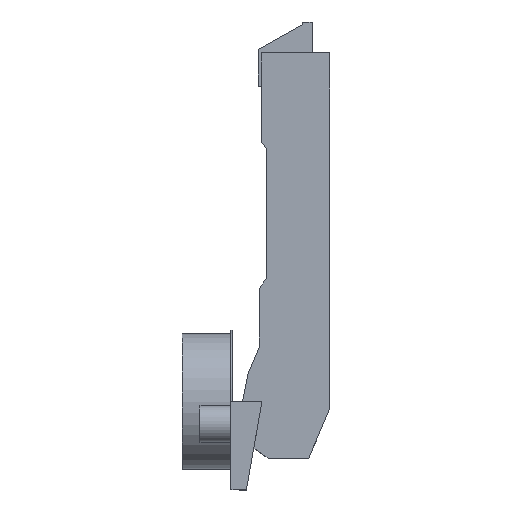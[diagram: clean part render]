
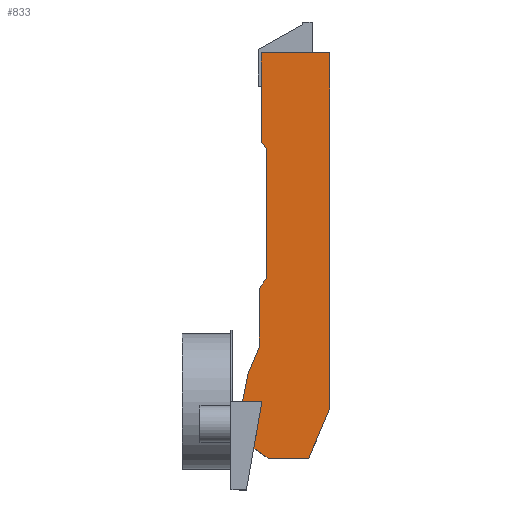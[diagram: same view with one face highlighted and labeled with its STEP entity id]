
A CAD part, top view. The second image highlights one B-rep face of the part: STEP entity #833.
In plain terms, the highlighted planar face has unit normal (0, 0, 1).
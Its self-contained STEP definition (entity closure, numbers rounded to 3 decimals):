
#29 = VERTEX_POINT ( 'NONE', #122 ) ;
#33 = VERTEX_POINT ( 'NONE', #126 ) ;
#44 = VERTEX_POINT ( 'NONE', #137 ) ;
#45 = VERTEX_POINT ( 'NONE', #138 ) ;
#47 = VERTEX_POINT ( 'NONE', #140 ) ;
#48 = VERTEX_POINT ( 'NONE', #141 ) ;
#57 = VERTEX_POINT ( 'NONE', #150 ) ;
#58 = VERTEX_POINT ( 'NONE', #151 ) ;
#64 = VERTEX_POINT ( 'NONE', #157 ) ;
#65 = VERTEX_POINT ( 'NONE', #158 ) ;
#67 = VERTEX_POINT ( 'NONE', #160 ) ;
#68 = VERTEX_POINT ( 'NONE', #161 ) ;
#73 = VERTEX_POINT ( 'NONE', #166 ) ;
#90 = VERTEX_POINT ( 'NONE', #183 ) ;
#93 = VERTEX_POINT ( 'NONE', #186 ) ;
#122 = CARTESIAN_POINT ( 'NONE',  ( 16.783, -14.594, 8.5 ) ) ;
#126 = CARTESIAN_POINT ( 'NONE',  ( 6.295, -14.594, 8.5 ) ) ;
#137 = CARTESIAN_POINT ( 'NONE',  ( 4.711, 0., 8.5 ) ) ;
#138 = CARTESIAN_POINT ( 'NONE',  ( 4.5, 90.1, 8.5 ) ) ;
#140 = CARTESIAN_POINT ( 'NONE',  ( 4.5, 67.242, 8.5 ) ) ;
#141 = CARTESIAN_POINT ( 'NONE',  ( 22.25, -1.744, 8.5 ) ) ;
#150 = CARTESIAN_POINT ( 'NONE',  ( 6., 32.108, 8.5 ) ) ;
#151 = CARTESIAN_POINT ( 'NONE',  ( 22.25, 90.1, 8.5 ) ) ;
#157 = CARTESIAN_POINT ( 'NONE',  ( 4.01, 29.266, 8.5 ) ) ;
#158 = CARTESIAN_POINT ( 'NONE',  ( 4.01, 14.096, 8.5 ) ) ;
#160 = CARTESIAN_POINT ( 'NONE',  ( 3.01, -12.294, 8.5 ) ) ;
#161 = CARTESIAN_POINT ( 'NONE',  ( 2.544, -12.294, 8.5 ) ) ;
#166 = CARTESIAN_POINT ( 'NONE',  ( 1.11, 7.296, 8.5 ) ) ;
#183 = CARTESIAN_POINT ( 'NONE',  ( -0.3, 0., 8.5 ) ) ;
#186 = CARTESIAN_POINT ( 'NONE',  ( 6., 65.1, 8.5 ) ) ;
#201 = CARTESIAN_POINT ( 'NONE',  ( -0.3, -12.294, 8.5 ) ) ;
#202 = PLANE ( 'NONE',  #1473 ) ;
#204 = DIRECTION ( 'NONE',  ( 0., 0., 1. ) ) ;
#205 = DIRECTION ( 'NONE',  ( 0., -1., 0. ) ) ;
#496 = CARTESIAN_POINT ( 'NONE',  ( 2.458, -12.78, 8.5 ) ) ;
#500 = DIRECTION ( 'NONE',  ( -0.174, -0.985, 0. ) ) ;
#505 = CARTESIAN_POINT ( 'NONE',  ( 3.01, -12.294, 8.5 ) ) ;
#508 = DIRECTION ( 'NONE',  ( 0.819, -0.574, 0. ) ) ;
#513 = CARTESIAN_POINT ( 'NONE',  ( 22.25, -1.744, 8.5 ) ) ;
#515 = CARTESIAN_POINT ( 'NONE',  ( 6.295, -14.594, 8.5 ) ) ;
#516 = DIRECTION ( 'NONE',  ( 0., 1., 0. ) ) ;
#519 = CARTESIAN_POINT ( 'NONE',  ( -0.3, 0., 8.5 ) ) ;
#520 = DIRECTION ( 'NONE',  ( -0.19, -0.982, 0. ) ) ;
#523 = CARTESIAN_POINT ( 'NONE',  ( 6., 32.108, 8.5 ) ) ;
#524 = DIRECTION ( 'NONE',  ( 1., 0., 0. ) ) ;
#527 = CARTESIAN_POINT ( 'NONE',  ( 4.5, 67.242, 8.5 ) ) ;
#528 = DIRECTION ( 'NONE',  ( 0., -1., 0. ) ) ;
#531 = CARTESIAN_POINT ( 'NONE',  ( 4.01, 14.096, 8.5 ) ) ;
#532 = DIRECTION ( 'NONE',  ( 0., -1., 0. ) ) ;
#535 = CARTESIAN_POINT ( 'NONE',  ( -0.3, 0., 8.5 ) ) ;
#536 = DIRECTION ( 'NONE',  ( 0., -1., 0. ) ) ;
#537 = CARTESIAN_POINT ( 'NONE',  ( -0.3, -12.294, 8.5 ) ) ;
#538 = DIRECTION ( 'NONE',  ( 1., 0., 0. ) ) ;
#541 = CARTESIAN_POINT ( 'NONE',  ( 1.11, 7.296, 8.5 ) ) ;
#542 = DIRECTION ( 'NONE',  ( 1., 0., 0. ) ) ;
#545 = CARTESIAN_POINT ( 'NONE',  ( 16.783, -14.594, 8.5 ) ) ;
#546 = DIRECTION ( 'NONE',  ( 0.392, 0.92, 0. ) ) ;
#549 = CARTESIAN_POINT ( 'NONE',  ( 22.25, 90.1, 8.5 ) ) ;
#550 = DIRECTION ( 'NONE',  ( -1., 0., 0. ) ) ;
#553 = CARTESIAN_POINT ( 'NONE',  ( 6., 65.1, 8.5 ) ) ;
#554 = DIRECTION ( 'NONE',  ( 0.574, -0.819, 0. ) ) ;
#557 = CARTESIAN_POINT ( 'NONE',  ( 4.01, 29.266, 8.5 ) ) ;
#558 = DIRECTION ( 'NONE',  ( -0.574, -0.819, 0. ) ) ;
#563 = DIRECTION ( 'NONE',  ( -0.392, -0.92, 0. ) ) ;
#821 = EDGE_LOOP ( 'NONE', ( #1061, #1060, #1057, #1058, #1055, #1056, #1053, #1054, #1052, #1051, #1767, #1768, #1771, #1772, #1773 ) ) ;
#833 = ADVANCED_FACE ( 'NONE', ( #1759 ), #202, .T. ) ;
#1051 = ORIENTED_EDGE ( 'NONE', *, *, #1609, .T. ) ;
#1052 = ORIENTED_EDGE ( 'NONE', *, *, #1620, .T. ) ;
#1053 = ORIENTED_EDGE ( 'NONE', *, *, #1618, .T. ) ;
#1054 = ORIENTED_EDGE ( 'NONE', *, *, #1603, .T. ) ;
#1055 = ORIENTED_EDGE ( 'NONE', *, *, #1599, .T. ) ;
#1056 = ORIENTED_EDGE ( 'NONE', *, *, #1607, .T. ) ;
#1057 = ORIENTED_EDGE ( 'NONE', *, *, #1595, .T. ) ;
#1058 = ORIENTED_EDGE ( 'NONE', *, *, #1614, .T. ) ;
#1060 = ORIENTED_EDGE ( 'NONE', *, *, #1616, .T. ) ;
#1061 = ORIENTED_EDGE ( 'NONE', *, *, #1605, .T. ) ;
#1110 = LINE ( 'NONE', #513, #1136 ) ;
#1117 = LINE ( 'NONE', #496, #1121 ) ;
#1121 = VECTOR ( 'NONE', #500, 1000. ) ;
#1124 = LINE ( 'NONE', #505, #1128 ) ;
#1128 = VECTOR ( 'NONE', #508, 1000. ) ;
#1129 = LINE ( 'NONE', #515, #1144 ) ;
#1135 = LINE ( 'NONE', #523, #1152 ) ;
#1136 = VECTOR ( 'NONE', #516, 1000. ) ;
#1137 = LINE ( 'NONE', #531, #1156 ) ;
#1140 = LINE ( 'NONE', #519, #1141 ) ;
#1141 = VECTOR ( 'NONE', #520, 1000. ) ;
#1144 = VECTOR ( 'NONE', #524, 1000. ) ;
#1145 = LINE ( 'NONE', #535, #1162 ) ;
#1148 = LINE ( 'NONE', #527, #1149 ) ;
#1149 = VECTOR ( 'NONE', #528, 1000. ) ;
#1152 = VECTOR ( 'NONE', #532, 1000. ) ;
#1153 = LINE ( 'NONE', #541, #1182 ) ;
#1156 = VECTOR ( 'NONE', #536, 1000. ) ;
#1158 = LINE ( 'NONE', #537, #1159 ) ;
#1159 = VECTOR ( 'NONE', #538, 1000. ) ;
#1162 = VECTOR ( 'NONE', #542, 1000. ) ;
#1166 = LINE ( 'NONE', #545, #1167 ) ;
#1167 = VECTOR ( 'NONE', #546, 1000. ) ;
#1170 = LINE ( 'NONE', #549, #1171 ) ;
#1171 = VECTOR ( 'NONE', #550, 1000. ) ;
#1174 = LINE ( 'NONE', #553, #1175 ) ;
#1175 = VECTOR ( 'NONE', #554, 1000. ) ;
#1178 = LINE ( 'NONE', #557, #1179 ) ;
#1179 = VECTOR ( 'NONE', #558, 1000. ) ;
#1182 = VECTOR ( 'NONE', #563, 1000. ) ;
#1473 = AXIS2_PLACEMENT_3D ( 'NONE', #201, #204, #205 ) ;
#1595 = EDGE_CURVE ( 'NONE', #44, #68, #1117, .T. ) ;
#1599 = EDGE_CURVE ( 'NONE', #67, #33, #1124, .T. ) ;
#1603 = EDGE_CURVE ( 'NONE', #48, #58, #1110, .T. ) ;
#1605 = EDGE_CURVE ( 'NONE', #73, #90, #1140, .T. ) ;
#1607 = EDGE_CURVE ( 'NONE', #33, #29, #1129, .T. ) ;
#1609 = EDGE_CURVE ( 'NONE', #45, #47, #1148, .T. ) ;
#1611 = EDGE_CURVE ( 'NONE', #93, #57, #1135, .T. ) ;
#1613 = EDGE_CURVE ( 'NONE', #64, #65, #1137, .T. ) ;
#1614 = EDGE_CURVE ( 'NONE', #68, #67, #1158, .T. ) ;
#1616 = EDGE_CURVE ( 'NONE', #90, #44, #1145, .T. ) ;
#1618 = EDGE_CURVE ( 'NONE', #29, #48, #1166, .T. ) ;
#1620 = EDGE_CURVE ( 'NONE', #58, #45, #1170, .T. ) ;
#1622 = EDGE_CURVE ( 'NONE', #47, #93, #1174, .T. ) ;
#1624 = EDGE_CURVE ( 'NONE', #57, #64, #1178, .T. ) ;
#1626 = EDGE_CURVE ( 'NONE', #65, #73, #1153, .T. ) ;
#1759 = FACE_OUTER_BOUND ( 'NONE', #821, .T. ) ;
#1767 = ORIENTED_EDGE ( 'NONE', *, *, #1622, .T. ) ;
#1768 = ORIENTED_EDGE ( 'NONE', *, *, #1611, .T. ) ;
#1771 = ORIENTED_EDGE ( 'NONE', *, *, #1624, .T. ) ;
#1772 = ORIENTED_EDGE ( 'NONE', *, *, #1613, .T. ) ;
#1773 = ORIENTED_EDGE ( 'NONE', *, *, #1626, .T. ) ;
